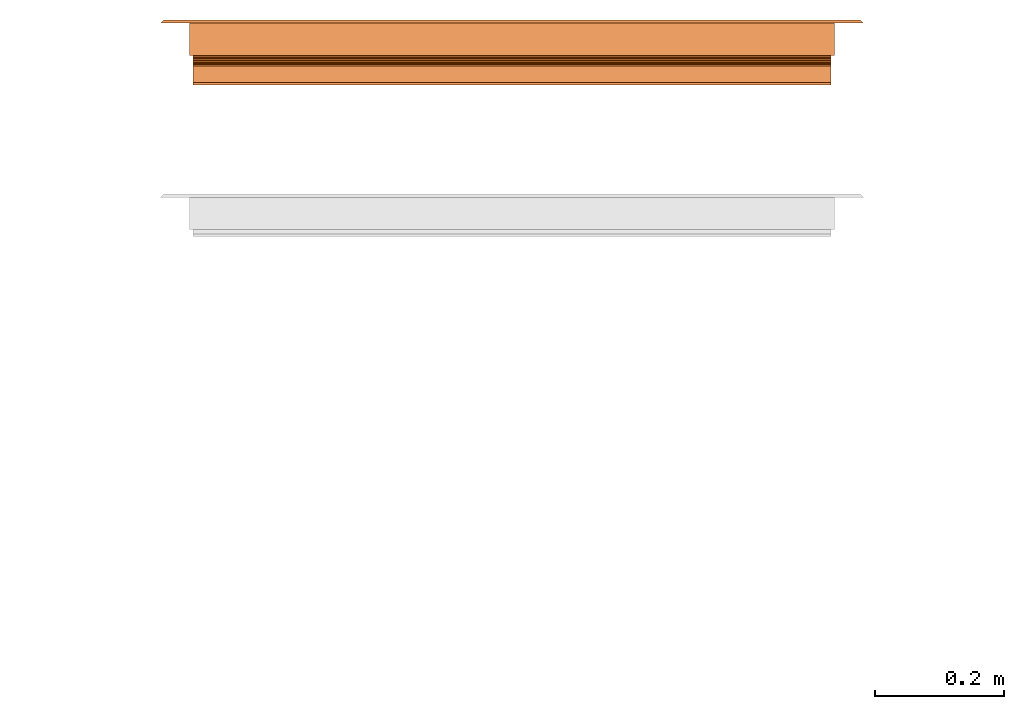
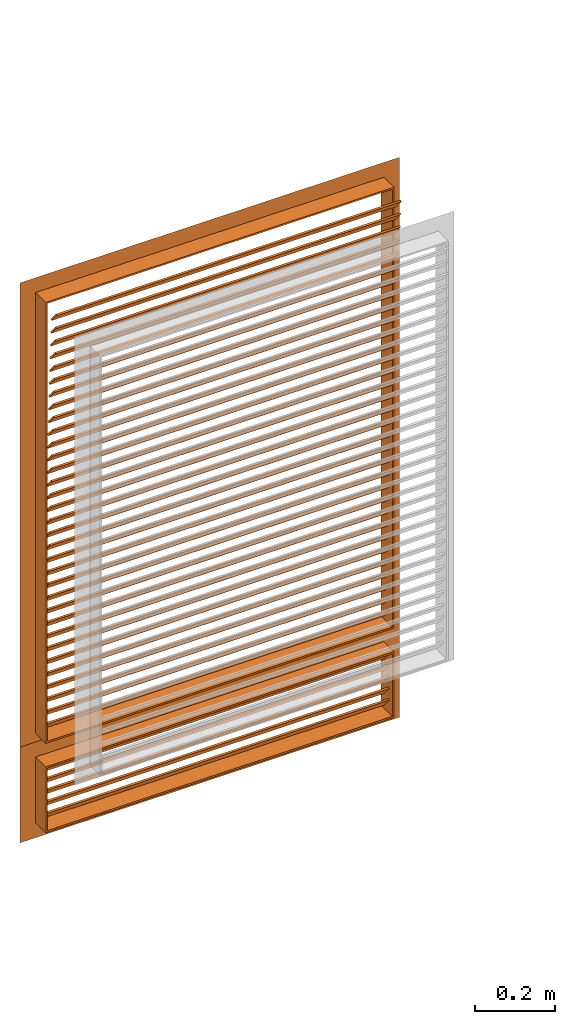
# One storey, part 4 of 5: 2 proxies.
"""IFC2X3 building model written with IfcOpenShell, lengths in centimetres."""

from ifc_helpers import new_model, entity, si_unit, converted_unit, derived_unit, direction, frame, origin, place, context, subcontext, project, spatial, faceted_brep, source, transform, mapped, material, type_object, type_shapes, element, save


model = new_model("IFC2X3")

# Units and contexts
model_context = context("Model", 3, precision=0.001, world=origin(), true_north=direction((6.12303176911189e-17, 1.0)))
body_context = subcontext(model_context, "Body", "Model", "MODEL_VIEW")
ifc_project = project(units=[si_unit("LENGTHUNIT", "METRE", prefix="CENTI"), si_unit("AREAUNIT", "SQUARE_METRE"), si_unit("VOLUMEUNIT", "CUBIC_METRE"), converted_unit("PLANEANGLEUNIT", "DEGREE", entity("IfcRatioMeasure", 0.0174532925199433), si_unit("PLANEANGLEUNIT", "RADIAN"), dimensions=[0, 0, 0, 0, 0, 0, 0]), si_unit("MASSUNIT", "GRAM", prefix="KILO"), si_unit("TIMEUNIT", "SECOND"), si_unit("FREQUENCYUNIT", "HERTZ"), si_unit("THERMODYNAMICTEMPERATUREUNIT", "DEGREE_CELSIUS"), derived_unit("THERMALTRANSMITTANCEUNIT", [(si_unit("MASSUNIT", "GRAM", prefix="KILO"), 1), (si_unit("THERMODYNAMICTEMPERATUREUNIT", "KELVIN"), -1), (si_unit("TIMEUNIT", "SECOND"), -3)]), derived_unit("VOLUMETRICFLOWRATEUNIT", [(si_unit("LENGTHUNIT", "METRE"), 3), (si_unit("TIMEUNIT", "SECOND"), -1)]), si_unit("ELECTRICCURRENTUNIT", "AMPERE"), si_unit("ELECTRICVOLTAGEUNIT", "VOLT"), si_unit("POWERUNIT", "WATT"), si_unit("FORCEUNIT", "NEWTON", prefix="KILO"), si_unit("ILLUMINANCEUNIT", "LUX"), si_unit("LUMINOUSFLUXUNIT", "LUMEN"), si_unit("LUMINOUSINTENSITYUNIT", "CANDELA"), derived_unit("USERDEFINED", [(si_unit("MASSUNIT", "GRAM", prefix="KILO"), -1), (si_unit("LENGTHUNIT", "METRE"), -2), (si_unit("TIMEUNIT", "SECOND"), 3), (si_unit("LUMINOUSFLUXUNIT", "LUMEN"), 1)]), derived_unit("LINEARVELOCITYUNIT", [(si_unit("LENGTHUNIT", "METRE"), 1), (si_unit("TIMEUNIT", "SECOND"), -1)]), si_unit("PRESSUREUNIT", "PASCAL"), derived_unit("USERDEFINED", [(si_unit("LENGTHUNIT", "METRE"), -2), (si_unit("MASSUNIT", "GRAM", prefix="KILO"), 1), (si_unit("TIMEUNIT", "SECOND"), -2)])], contexts=[model_context])

# Site, building, storey
site_placement = place(None, frame((8.62739174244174, -249.285249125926, 0.0)))
site = spatial("IfcSite", under=ifc_project, at=site_placement, Name="Default", CompositionType="ELEMENT")
building_placement = place(site_placement, origin())
building = spatial("IfcBuilding", under=site, at=building_placement, CompositionType="ELEMENT")
storey_placement = place(building_placement, frame((0.0, 0.0, 410.0)))
storey = spatial("IfcBuildingStorey", under=building, at=storey_placement, Name="Acrotère E1", CompositionType="ELEMENT", Elevation=410.000000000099)

# Proxies
ifc_material = material(Name="Acier - Galvanisé")
building_element_proxy_type_1 = type_object("IfcBuildingElementProxyType", Name="1000 x 800 mm", PredefinedType="NOTDEFINED", material=ifc_material)
shared_shape_1 = source(origin(), body_context, "Body", "Brep", [
    faceted_brep([(104.011775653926, 5.81249999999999, 13.071986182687), (104.011775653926, 8.38365043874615, 10.007808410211), (104.011775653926, 8.76667266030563, 10.3292022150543), (104.011775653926, 6.19552222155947, 13.3933799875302), (5.01177565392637, 5.81249999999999, 13.071986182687), (5.01177565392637, 6.19552222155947, 13.3933799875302), (5.01177565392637, 8.76667266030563, 10.3292022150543), (5.01177565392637, 8.38365043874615, 10.007808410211)], [[[0, 1, 2, 3]], [[4, 5, 6, 7]], [[1, 0, 4, 7]], [[2, 1, 7, 6]], [[3, 2, 6, 5]], [[0, 3, 5, 4]]]),
    faceted_brep([(104.011775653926, 5.62499999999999, 17.0680189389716), (104.011775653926, 8.19615043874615, 14.0038411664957), (104.011775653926, 8.57917266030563, 14.325234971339), (104.011775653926, 6.00802222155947, 17.3894127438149), (5.01177565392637, 5.62499999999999, 17.0680189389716), (5.01177565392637, 6.00802222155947, 17.3894127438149), (5.01177565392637, 8.57917266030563, 14.325234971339), (5.01177565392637, 8.19615043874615, 14.0038411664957)], [[[0, 1, 2, 3]], [[4, 5, 6, 7]], [[1, 0, 4, 7]], [[2, 1, 7, 6]], [[3, 2, 6, 5]], [[0, 3, 5, 4]]]),
    faceted_brep([(104.011775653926, 5.4375, 21.0640516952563), (104.011775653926, 8.00865043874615, 17.9998739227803), (104.011775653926, 8.39167266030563, 18.3212677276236), (104.011775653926, 5.82052222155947, 21.3854455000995), (5.01177565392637, 5.4375, 21.0640516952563), (5.01177565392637, 5.82052222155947, 21.3854455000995), (5.01177565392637, 8.39167266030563, 18.3212677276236), (5.01177565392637, 8.00865043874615, 17.9998739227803)], [[[0, 1, 2, 3]], [[4, 5, 6, 7]], [[1, 0, 4, 7]], [[2, 1, 7, 6]], [[3, 2, 6, 5]], [[0, 3, 5, 4]]]),
    faceted_brep([(104.011775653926, 5.24999999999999, 25.0600844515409), (104.011775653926, 7.82115043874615, 21.995906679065), (104.011775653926, 8.20417266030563, 22.3173004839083), (104.011775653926, 5.63302222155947, 25.3814782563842), (5.01177565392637, 5.24999999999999, 25.0600844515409), (5.01177565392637, 5.63302222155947, 25.3814782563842), (5.01177565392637, 8.20417266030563, 22.3173004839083), (5.01177565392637, 7.82115043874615, 21.995906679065)], [[[0, 1, 2, 3]], [[4, 5, 6, 7]], [[1, 0, 4, 7]], [[2, 1, 7, 6]], [[3, 2, 6, 5]], [[0, 3, 5, 4]]]),
    faceted_brep([(104.011775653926, 5.06249999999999, 29.0561172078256), (104.011775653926, 7.63365043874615, 25.9919394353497), (104.011775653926, 8.01667266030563, 26.313333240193), (104.011775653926, 5.44552222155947, 29.3775110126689), (5.01177565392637, 5.06249999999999, 29.0561172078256), (5.01177565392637, 5.44552222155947, 29.3775110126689), (5.01177565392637, 8.01667266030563, 26.313333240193), (5.01177565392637, 7.63365043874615, 25.9919394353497)], [[[0, 1, 2, 3]], [[4, 5, 6, 7]], [[1, 0, 4, 7]], [[2, 1, 7, 6]], [[3, 2, 6, 5]], [[0, 3, 5, 4]]]),
    faceted_brep([(104.011775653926, 4.87499999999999, 33.0521499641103), (104.011775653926, 7.44615043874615, 29.9879721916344), (104.011775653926, 7.82917266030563, 30.3093659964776), (104.011775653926, 5.25802222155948, 33.3735437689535), (5.01177565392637, 4.87499999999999, 33.0521499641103), (5.01177565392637, 5.25802222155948, 33.3735437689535), (5.01177565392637, 7.82917266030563, 30.3093659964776), (5.01177565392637, 7.44615043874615, 29.9879721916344)], [[[0, 1, 2, 3]], [[4, 5, 6, 7]], [[1, 0, 4, 7]], [[2, 1, 7, 6]], [[3, 2, 6, 5]], [[0, 3, 5, 4]]]),
    faceted_brep([(104.011775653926, 4.68749999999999, 37.0481827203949), (104.011775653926, 7.25865043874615, 33.984004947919), (104.011775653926, 7.64167266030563, 34.3053987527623), (104.011775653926, 5.07052222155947, 37.3695765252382), (5.01177565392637, 4.68749999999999, 37.0481827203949), (5.01177565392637, 5.07052222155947, 37.3695765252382), (5.01177565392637, 7.64167266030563, 34.3053987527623), (5.01177565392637, 7.25865043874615, 33.984004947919)], [[[0, 1, 2, 3]], [[4, 5, 6, 7]], [[1, 0, 4, 7]], [[2, 1, 7, 6]], [[3, 2, 6, 5]], [[0, 3, 5, 4]]]),
    faceted_brep([(104.011775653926, 4.5, 41.0442154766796), (104.011775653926, 7.07115043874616, 37.9800377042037), (104.011775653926, 7.45417266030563, 38.301431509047), (104.011775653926, 4.88302222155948, 41.3656092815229), (5.01177565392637, 4.5, 41.0442154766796), (5.01177565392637, 4.88302222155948, 41.3656092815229), (5.01177565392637, 7.45417266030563, 38.301431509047), (5.01177565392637, 7.07115043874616, 37.9800377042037)], [[[0, 1, 2, 3]], [[4, 5, 6, 7]], [[1, 0, 4, 7]], [[2, 1, 7, 6]], [[3, 2, 6, 5]], [[0, 3, 5, 4]]]),
    faceted_brep([(104.011775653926, 4.31249999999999, 45.0402482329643), (104.011775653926, 6.88365043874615, 41.9760704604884), (104.011775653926, 7.26667266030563, 42.2974642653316), (104.011775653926, 4.69552222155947, 45.3616420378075), (5.01177565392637, 4.31249999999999, 45.0402482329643), (5.01177565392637, 4.69552222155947, 45.3616420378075), (5.01177565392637, 7.26667266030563, 42.2974642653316), (5.01177565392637, 6.88365043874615, 41.9760704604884)], [[[0, 1, 2, 3]], [[4, 5, 6, 7]], [[1, 0, 4, 7]], [[2, 1, 7, 6]], [[3, 2, 6, 5]], [[0, 3, 5, 4]]]),
    faceted_brep([(104.011775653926, 4.125, 49.0362809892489), (104.011775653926, 6.69615043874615, 45.972103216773), (104.011775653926, 7.07917266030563, 46.2934970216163), (104.011775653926, 4.50802222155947, 49.3576747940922), (5.01177565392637, 4.125, 49.0362809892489), (5.01177565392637, 4.50802222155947, 49.3576747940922), (5.01177565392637, 7.07917266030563, 46.2934970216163), (5.01177565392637, 6.69615043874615, 45.972103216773)], [[[0, 1, 2, 3]], [[4, 5, 6, 7]], [[1, 0, 4, 7]], [[2, 1, 7, 6]], [[3, 2, 6, 5]], [[0, 3, 5, 4]]]),
    faceted_brep([(104.011775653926, 3.93749999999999, 53.0323137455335), (104.011775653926, 6.50865043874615, 49.9681359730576), (104.011775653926, 6.89167266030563, 50.2895297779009), (104.011775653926, 4.32052222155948, 53.3537075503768), (5.01177565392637, 3.93749999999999, 53.0323137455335), (5.01177565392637, 4.32052222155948, 53.3537075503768), (5.01177565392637, 6.89167266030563, 50.2895297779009), (5.01177565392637, 6.50865043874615, 49.9681359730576)], [[[0, 1, 2, 3]], [[4, 5, 6, 7]], [[1, 0, 4, 7]], [[2, 1, 7, 6]], [[3, 2, 6, 5]], [[0, 3, 5, 4]]]),
    faceted_brep([(104.011775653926, 3.75, 57.0283465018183), (104.011775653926, 6.32115043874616, 53.9641687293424), (104.011775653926, 6.70417266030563, 54.2855625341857), (104.011775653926, 4.13302222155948, 57.3497403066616), (5.01177565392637, 3.75, 57.0283465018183), (5.01177565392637, 4.13302222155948, 57.3497403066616), (5.01177565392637, 6.70417266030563, 54.2855625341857), (5.01177565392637, 6.32115043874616, 53.9641687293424)], [[[0, 1, 2, 3]], [[4, 5, 6, 7]], [[1, 0, 4, 7]], [[2, 1, 7, 6]], [[3, 2, 6, 5]], [[0, 3, 5, 4]]]),
    faceted_brep([(104.011775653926, 3.5625, 61.0243792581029), (104.011775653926, 6.13365043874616, 57.960201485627), (104.011775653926, 6.51667266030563, 58.2815952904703), (104.011775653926, 3.94552222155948, 61.3457730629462), (5.01177565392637, 3.5625, 61.0243792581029), (5.01177565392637, 3.94552222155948, 61.3457730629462), (5.01177565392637, 6.51667266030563, 58.2815952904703), (5.01177565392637, 6.13365043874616, 57.960201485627)], [[[0, 1, 2, 3]], [[4, 5, 6, 7]], [[1, 0, 4, 7]], [[2, 1, 7, 6]], [[3, 2, 6, 5]], [[0, 3, 5, 4]]]),
    faceted_brep([(104.011775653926, 3.375, 65.0204120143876), (104.011775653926, 5.94615043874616, 61.9562342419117), (104.011775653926, 6.32917266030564, 62.277628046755), (104.011775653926, 3.75802222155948, 65.3418058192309), (5.01177565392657, 3.375, 65.0204120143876), (5.01177565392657, 3.75802222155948, 65.3418058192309), (5.01177565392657, 6.32917266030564, 62.277628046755), (5.01177565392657, 5.94615043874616, 61.9562342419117)], [[[0, 1, 2, 3]], [[4, 5, 6, 7]], [[1, 0, 4, 7]], [[2, 1, 7, 6]], [[3, 2, 6, 5]], [[0, 3, 5, 4]]]),
    faceted_brep([(104.011775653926, 3.1875, 69.0164447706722), (104.011775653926, 5.75865043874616, 65.9522669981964), (104.011775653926, 6.14167266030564, 66.2736608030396), (104.011775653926, 3.57052222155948, 69.3378385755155), (5.01177565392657, 3.1875, 69.0164447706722), (5.01177565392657, 3.57052222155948, 69.3378385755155), (5.01177565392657, 6.14167266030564, 66.2736608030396), (5.01177565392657, 5.75865043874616, 65.9522669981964)], [[[0, 1, 2, 3]], [[4, 5, 6, 7]], [[1, 0, 4, 7]], [[2, 1, 7, 6]], [[3, 2, 6, 5]], [[0, 3, 5, 4]]]),
    faceted_brep([(104.011775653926, 3.0, 73.0124775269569), (104.011775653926, 5.57115043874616, 69.948299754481), (104.011775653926, 5.95417266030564, 70.2696935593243), (104.011775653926, 3.38302222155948, 73.3338713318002), (5.01177565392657, 3.0, 73.0124775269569), (5.01177565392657, 3.38302222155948, 73.3338713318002), (5.01177565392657, 5.95417266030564, 70.2696935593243), (5.01177565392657, 5.57115043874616, 69.948299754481)], [[[0, 1, 2, 3]], [[4, 5, 6, 7]], [[1, 0, 4, 7]], [[2, 1, 7, 6]], [[3, 2, 6, 5]], [[0, 3, 5, 4]]]),
    faceted_brep([(104.011775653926, 2.8125, 77.0085102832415), (104.011775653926, 5.38365043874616, 73.9443325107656), (104.011775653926, 5.76667266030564, 74.2657263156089), (104.011775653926, 3.19552222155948, 77.3299040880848), (5.01177565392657, 2.8125, 77.0085102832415), (5.01177565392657, 3.19552222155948, 77.3299040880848), (5.01177565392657, 5.76667266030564, 74.2657263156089), (5.01177565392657, 5.38365043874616, 73.9443325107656)], [[[0, 1, 2, 3]], [[4, 5, 6, 7]], [[1, 0, 4, 7]], [[2, 1, 7, 6]], [[3, 2, 6, 5]], [[0, 3, 5, 4]]]),
    faceted_brep([(104.011775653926, 2.625, 81.0045430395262), (104.011775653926, 5.19615043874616, 77.9403652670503), (104.011775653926, 5.57917266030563, 78.2617590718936), (104.011775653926, 3.00802222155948, 81.3259368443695), (5.01177565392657, 2.625, 81.0045430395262), (5.01177565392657, 3.00802222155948, 81.3259368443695), (5.01177565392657, 5.57917266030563, 78.2617590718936), (5.01177565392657, 5.19615043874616, 77.9403652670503)], [[[0, 1, 2, 3]], [[4, 5, 6, 7]], [[1, 0, 4, 7]], [[2, 1, 7, 6]], [[3, 2, 6, 5]], [[0, 3, 5, 4]]]),
    faceted_brep([(104.011775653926, 2.4375, 85.0005757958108), (104.011775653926, 5.00865043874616, 81.936398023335), (104.011775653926, 5.39167266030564, 82.2577918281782), (104.011775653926, 2.82052222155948, 85.3219696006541), (5.01177565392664, 2.4375, 85.0005757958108), (5.01177565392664, 2.82052222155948, 85.3219696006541), (5.01177565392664, 5.39167266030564, 82.2577918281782), (5.01177565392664, 5.00865043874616, 81.936398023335)], [[[0, 1, 2, 3]], [[4, 5, 6, 7]], [[1, 0, 4, 7]], [[2, 1, 7, 6]], [[3, 2, 6, 5]], [[0, 3, 5, 4]]]),
    faceted_brep([(104.011775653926, 2.25, 88.9966085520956), (104.011775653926, 4.82115043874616, 85.9324307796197), (104.011775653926, 5.20417266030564, 86.253824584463), (104.011775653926, 2.63302222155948, 89.3180023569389), (5.01177565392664, 2.25, 88.9966085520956), (5.01177565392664, 2.63302222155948, 89.3180023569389), (5.01177565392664, 5.20417266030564, 86.253824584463), (5.01177565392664, 4.82115043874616, 85.9324307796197)], [[[0, 1, 2, 3]], [[4, 5, 6, 7]], [[1, 0, 4, 7]], [[2, 1, 7, 6]], [[3, 2, 6, 5]], [[0, 3, 5, 4]]]),
    faceted_brep([(104.011775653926, 2.0625, 92.9926413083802), (104.011775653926, 4.63365043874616, 89.9284635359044), (104.011775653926, 5.01667266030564, 90.2498573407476), (104.011775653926, 2.44552222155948, 93.3140351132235), (5.01177565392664, 2.0625, 92.9926413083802), (5.01177565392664, 2.44552222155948, 93.3140351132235), (5.01177565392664, 5.01667266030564, 90.2498573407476), (5.01177565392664, 4.63365043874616, 89.9284635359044)], [[[0, 1, 2, 3]], [[4, 5, 6, 7]], [[1, 0, 4, 7]], [[2, 1, 7, 6]], [[3, 2, 6, 5]], [[0, 3, 5, 4]]]),
    faceted_brep([(104.011775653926, 1.875, 96.9886740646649), (104.011775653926, 4.44615043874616, 93.924496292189), (104.011775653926, 4.82917266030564, 94.2458900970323), (104.011775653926, 2.25802222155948, 97.3100678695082), (5.01177565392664, 1.875, 96.9886740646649), (5.01177565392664, 2.25802222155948, 97.3100678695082), (5.01177565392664, 4.82917266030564, 94.2458900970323), (5.01177565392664, 4.44615043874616, 93.924496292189)], [[[0, 1, 2, 3]], [[4, 5, 6, 7]], [[1, 0, 4, 7]], [[2, 1, 7, 6]], [[3, 2, 6, 5]], [[0, 3, 5, 4]]]),
    faceted_brep([(104.011775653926, 1.6875, 100.98470682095), (104.011775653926, 4.25865043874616, 97.9205290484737), (104.011775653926, 4.64167266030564, 98.241922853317), (104.011775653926, 2.07052222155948, 101.306100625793), (5.01177565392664, 1.6875, 100.98470682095), (5.01177565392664, 2.07052222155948, 101.306100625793), (5.01177565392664, 4.64167266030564, 98.241922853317), (5.01177565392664, 4.25865043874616, 97.9205290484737)], [[[0, 1, 2, 3]], [[4, 5, 6, 7]], [[1, 0, 4, 7]], [[2, 1, 7, 6]], [[3, 2, 6, 5]], [[0, 3, 5, 4]]]),
    faceted_brep([(104.011775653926, 1.5, 104.980739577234), (104.011775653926, 4.07115043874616, 101.916561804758), (104.011775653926, 4.45417266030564, 102.237955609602), (104.011775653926, 1.88302222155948, 105.302133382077), (5.01177565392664, 1.5, 104.980739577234), (5.01177565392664, 1.88302222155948, 105.302133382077), (5.01177565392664, 4.45417266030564, 102.237955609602), (5.01177565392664, 4.07115043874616, 101.916561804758)], [[[0, 1, 2, 3]], [[4, 5, 6, 7]], [[1, 0, 4, 7]], [[2, 1, 7, 6]], [[3, 2, 6, 5]], [[0, 3, 5, 4]]]),
    faceted_brep([(104.011775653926, 1.3125, 108.976772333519), (104.011775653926, 3.88365043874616, 105.912594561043), (104.011775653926, 4.26667266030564, 106.233988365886), (104.011775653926, 1.69552222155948, 109.298166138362), (5.01177565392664, 1.3125, 108.976772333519), (5.01177565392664, 1.69552222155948, 109.298166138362), (5.01177565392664, 4.26667266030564, 106.233988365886), (5.01177565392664, 3.88365043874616, 105.912594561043)], [[[0, 1, 2, 3]], [[4, 5, 6, 7]], [[1, 0, 4, 7]], [[2, 1, 7, 6]], [[3, 2, 6, 5]], [[0, 3, 5, 4]]]),
    faceted_brep([(104.011775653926, 1.125, 112.972805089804), (104.011775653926, 3.69615043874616, 109.908627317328), (104.011775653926, 4.07917266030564, 110.230021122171), (104.011775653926, 1.50802222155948, 113.294198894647), (5.01177565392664, 1.125, 112.972805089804), (5.01177565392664, 1.50802222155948, 113.294198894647), (5.01177565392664, 4.07917266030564, 110.230021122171), (5.01177565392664, 3.69615043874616, 109.908627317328)], [[[0, 1, 2, 3]], [[4, 5, 6, 7]], [[1, 0, 4, 7]], [[2, 1, 7, 6]], [[3, 2, 6, 5]], [[0, 3, 5, 4]]]),
    faceted_brep([(104.011775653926, 0.937499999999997, 116.968837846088), (104.011775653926, 3.50865043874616, 113.904660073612), (104.011775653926, 3.89167266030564, 114.226053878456), (104.011775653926, 1.32052222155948, 117.290231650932), (5.01177565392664, 0.937499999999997, 116.968837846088), (5.01177565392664, 1.32052222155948, 117.290231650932), (5.01177565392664, 3.89167266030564, 114.226053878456), (5.01177565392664, 3.50865043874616, 113.904660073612)], [[[0, 1, 2, 3]], [[4, 5, 6, 7]], [[1, 0, 4, 7]], [[2, 1, 7, 6]], [[3, 2, 6, 5]], [[0, 3, 5, 4]]]),
    faceted_brep([(104.011775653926, 0.75, 120.964870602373), (104.011775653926, 3.32115043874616, 117.900692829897), (104.011775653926, 3.70417266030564, 118.22208663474), (104.011775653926, 1.13302222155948, 121.286264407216), (5.01177565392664, 0.75, 120.964870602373), (5.01177565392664, 1.13302222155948, 121.286264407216), (5.01177565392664, 3.70417266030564, 118.22208663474), (5.01177565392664, 3.32115043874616, 117.900692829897)], [[[0, 1, 2, 3]], [[4, 5, 6, 7]], [[1, 0, 4, 7]], [[2, 1, 7, 6]], [[3, 2, 6, 5]], [[0, 3, 5, 4]]]),
    faceted_brep([(104.011775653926, 0.5625, 124.960903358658), (104.011775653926, 3.13365043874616, 121.896725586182), (104.011775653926, 3.51667266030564, 122.218119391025), (104.011775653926, 0.945522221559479, 125.282297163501), (5.01177565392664, 0.5625, 124.960903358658), (5.01177565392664, 0.945522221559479, 125.282297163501), (5.01177565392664, 3.51667266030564, 122.218119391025), (5.01177565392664, 3.13365043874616, 121.896725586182)], [[[0, 1, 2, 3]], [[4, 5, 6, 7]], [[1, 0, 4, 7]], [[2, 1, 7, 6]], [[3, 2, 6, 5]], [[0, 3, 5, 4]]]),
    faceted_brep([(104.011775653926, 0.374999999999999, 128.956936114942), (104.011775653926, 2.94615043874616, 125.892758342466), (104.011775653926, 3.32917266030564, 126.21415214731), (104.011775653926, 0.758022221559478, 129.278329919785), (5.01177565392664, 0.374999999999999, 128.956936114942), (5.01177565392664, 0.758022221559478, 129.278329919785), (5.01177565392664, 3.32917266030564, 126.21415214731), (5.01177565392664, 2.94615043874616, 125.892758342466)], [[[0, 1, 2, 3]], [[4, 5, 6, 7]], [[1, 0, 4, 7]], [[2, 1, 7, 6]], [[3, 2, 6, 5]], [[0, 3, 5, 4]]]),
    faceted_brep([(104.011775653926, 0.187499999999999, 132.952968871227), (104.011775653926, 2.75865043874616, 129.888791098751), (104.011775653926, 3.14167266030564, 130.210184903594), (104.011775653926, 0.570522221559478, 133.27436267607), (5.01177565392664, 0.187499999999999, 132.952968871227), (5.01177565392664, 0.570522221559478, 133.27436267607), (5.01177565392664, 3.14167266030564, 130.210184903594), (5.01177565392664, 2.75865043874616, 129.888791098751)], [[[0, 1, 2, 3]], [[4, 5, 6, 7]], [[1, 0, 4, 7]], [[2, 1, 7, 6]], [[3, 2, 6, 5]], [[0, 3, 5, 4]]]),
    faceted_brep([(104.011775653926, 6.0, 9.07595342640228), (104.011775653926, 8.57115043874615, 6.01177565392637), (104.011775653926, 8.95417266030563, 6.33316945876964), (104.011775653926, 6.38302222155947, 9.39734723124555), (5.01177565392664, 6.0, 9.07595342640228), (5.01177565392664, 6.38302222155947, 9.39734723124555), (5.01177565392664, 8.95417266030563, 6.33316945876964), (5.01177565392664, 8.57115043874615, 6.01177565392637)], [[[0, 1, 2, 3]], [[4, 5, 6, 7]], [[1, 0, 4, 7]], [[2, 1, 7, 6]], [[3, 2, 6, 5]], [[0, 3, 5, 4]]]),
    faceted_brep([(104.011775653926, 0.0, 136.949001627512), (104.011775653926, 2.57115043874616, 133.884823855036), (104.011775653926, 2.95417266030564, 134.206217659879), (104.011775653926, 0.383022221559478, 137.270395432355), (5.01177565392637, 0.0, 136.949001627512), (5.01177565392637, 0.383022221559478, 137.270395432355), (5.01177565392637, 2.95417266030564, 134.206217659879), (5.01177565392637, 2.57115043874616, 133.884823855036)], [[[0, 1, 2, 3]], [[4, 5, 6, 7]], [[1, 0, 4, 7]], [[2, 1, 7, 6]], [[3, 2, 6, 5]], [[0, 3, 5, 4]]]),
    faceted_brep([(4.51177565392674, 4.57115043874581, 138.384823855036), (4.51177565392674, 9.57115043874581, 138.384823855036), (4.51177565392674, 9.57115043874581, 4.51177565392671), (4.51177565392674, 4.57115043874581, 4.51177565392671), (5.01177565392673, 10.0711504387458, 137.884823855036), (5.01177565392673, 4.57115043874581, 137.884823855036), (5.01177565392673, 4.57115043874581, 5.0117756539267), (5.01177565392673, 10.0711504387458, 5.0117756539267), (0.0, 9.57115043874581, 142.896599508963), (0.499999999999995, 10.0711504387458, 142.396599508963), (0.499999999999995, 10.0711504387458, 0.499999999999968), (0.0, 9.57115043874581, 0.0), (104.511775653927, 9.57115043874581, 4.51177565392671), (104.511775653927, 4.57115043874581, 4.51177565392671), (104.011775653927, 4.57115043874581, 5.0117756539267), (104.011775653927, 10.0711504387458, 5.0117756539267), (108.523551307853, 10.0711504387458, 0.499999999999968), (109.023551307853, 9.57115043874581, 0.0), (104.511775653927, 9.57115043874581, 138.384823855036), (104.511775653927, 4.57115043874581, 138.384823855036), (104.011775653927, 4.57115043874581, 137.884823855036), (104.011775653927, 10.0711504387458, 137.884823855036), (108.523551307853, 10.0711504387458, 142.396599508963), (109.023551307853, 9.57115043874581, 142.896599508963)], [[[0, 1, 2, 3]], [[4, 5, 6, 7]], [[8, 9, 10, 11]], [[3, 2, 12, 13]], [[7, 6, 14, 15]], [[11, 10, 16, 17]], [[13, 12, 18, 19]], [[15, 14, 20, 21]], [[17, 16, 22, 23]], [[19, 18, 1, 0]], [[3, 13, 19, 0], [5, 20, 14, 6]], [[21, 20, 5, 4]], [[7, 15, 21, 4], [9, 22, 16, 10]], [[23, 22, 9, 8]], [[11, 17, 23, 8], [1, 18, 12, 2]]], outer=[[True], [True], [True], [True], [True], [True], [True], [True], [True], [True], [True, False], [True], [False, True], [True], [True, False]]),
])
type_shapes(building_element_proxy_type_1, [shared_shape_1])
proxy_1_placement = place(storey_placement, frame((3611.39305210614, 6132.40905770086, 68.1034004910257)))
element("IfcBuildingElementProxy", 1, at=proxy_1_placement, inside=storey, type_object=building_element_proxy_type_1, material=ifc_material, Name="Grille d'aération-100x80:1000 x 800 mm", ObjectType="1000 x 800 mm", context=body_context, shape_type="MappedRepresentation", body=[
    mapped(shared_shape_1, transform((0.0, 0.0, 0.0), scale=1.0)),
])
building_element_proxy_type_2 = type_object("IfcBuildingElementProxyType", Name="900 x 600 mm", PredefinedType="NOTDEFINED", material=ifc_material)
shared_shape_2 = source(origin(), body_context, "Body", "Brep", [
    faceted_brep([(104.011775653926, 1.42884956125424, 12.5759534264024), (104.011775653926, 4.0, 9.51177565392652), (104.011775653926, 4.38302222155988, 9.8331694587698), (104.011775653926, 1.81187178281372, 12.8973472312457), (5.01177565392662, 1.42884956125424, 12.5759534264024), (5.01177565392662, 1.81187178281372, 12.8973472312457), (5.01177565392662, 4.38302222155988, 9.8331694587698), (5.01177565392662, 4.0, 9.51177565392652)], [[[0, 1, 2, 3]], [[4, 5, 6, 7]], [[1, 0, 4, 7]], [[2, 1, 7, 6]], [[3, 2, 6, 5]], [[0, 3, 5, 4]]]),
    faceted_brep([(104.011775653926, 1.4288495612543, 16.0759534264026), (104.011775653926, 4.0, 13.0117756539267), (104.011775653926, 4.38302222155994, 13.3331694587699), (104.011775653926, 1.81187178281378, 16.3973472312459), (5.01177565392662, 1.4288495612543, 16.0759534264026), (5.01177565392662, 1.81187178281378, 16.3973472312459), (5.01177565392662, 4.38302222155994, 13.3331694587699), (5.01177565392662, 4.0, 13.0117756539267)], [[[0, 1, 2, 3]], [[4, 5, 6, 7]], [[1, 0, 4, 7]], [[2, 1, 7, 6]], [[3, 2, 6, 5]], [[0, 3, 5, 4]]]),
    faceted_brep([(104.011775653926, 1.42884956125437, 19.5759534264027), (104.011775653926, 4.0, 16.5117756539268), (104.011775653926, 4.38302222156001, 16.8331694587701), (104.011775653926, 1.81187178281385, 19.897347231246), (5.01177565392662, 1.42884956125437, 19.5759534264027), (5.01177565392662, 1.81187178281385, 19.897347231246), (5.01177565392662, 4.38302222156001, 16.8331694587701), (5.01177565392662, 4.0, 16.5117756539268)], [[[0, 1, 2, 3]], [[4, 5, 6, 7]], [[1, 0, 4, 7]], [[2, 1, 7, 6]], [[3, 2, 6, 5]], [[0, 3, 5, 4]]]),
    faceted_brep([(104.011775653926, 1.42884956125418, 9.0759534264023), (104.011775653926, 4.0, 6.01177565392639), (104.011775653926, 4.38302222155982, 6.33316945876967), (104.011775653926, 1.81187178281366, 9.39734723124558), (5.01177565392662, 1.42884956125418, 9.0759534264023), (5.01177565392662, 1.81187178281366, 9.39734723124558), (5.01177565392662, 4.38302222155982, 6.33316945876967), (5.01177565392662, 4.0, 6.01177565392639)], [[[0, 1, 2, 3]], [[4, 5, 6, 7]], [[1, 0, 4, 7]], [[2, 1, 7, 6]], [[3, 2, 6, 5]], [[0, 3, 5, 4]]]),
    faceted_brep([(104.011775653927, 1.42884956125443, 23.0759534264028), (104.011775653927, 4.0, 20.0117756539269), (104.011775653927, 4.38302222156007, 20.3331694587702), (104.011775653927, 1.81187178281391, 23.3973472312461), (5.01177565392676, 1.42884956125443, 23.0759534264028), (5.01177565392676, 1.81187178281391, 23.3973472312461), (5.01177565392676, 4.38302222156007, 20.3331694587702), (5.01177565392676, 4.0, 20.0117756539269)], [[[0, 1, 2, 3]], [[4, 5, 6, 7]], [[1, 0, 4, 7]], [[2, 1, 7, 6]], [[3, 2, 6, 5]], [[0, 3, 5, 4]]]),
    faceted_brep([(4.51177565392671, 0.0, 24.5117756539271), (4.51177565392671, 5.0, 24.5117756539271), (4.51177565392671, 5.0, 4.51177565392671), (4.51177565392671, 0.0, 4.51177565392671), (5.0117756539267, 5.5, 24.0117756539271), (5.0117756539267, 0.0, 24.0117756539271), (5.0117756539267, 0.0, 5.0117756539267), (5.0117756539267, 5.5, 5.0117756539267), (0.0, 5.0, 29.0235513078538), (0.499999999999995, 5.5, 28.5235513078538), (0.499999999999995, 5.5, 0.499999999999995), (0.0, 5.0, 0.0), (104.511775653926, 5.0, 4.51177565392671), (104.511775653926, 0.0, 4.51177565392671), (104.011775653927, 0.0, 5.0117756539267), (104.011775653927, 5.5, 5.0117756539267), (108.523551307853, 5.5, 0.499999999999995), (109.023551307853, 5.0, 0.0), (104.511775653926, 5.0, 24.5117756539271), (104.511775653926, 0.0, 24.5117756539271), (104.011775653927, 0.0, 24.0117756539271), (104.011775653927, 5.5, 24.0117756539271), (108.523551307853, 5.5, 28.5235513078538), (109.023551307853, 5.0, 29.0235513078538)], [[[0, 1, 2, 3]], [[4, 5, 6, 7]], [[8, 9, 10, 11]], [[3, 2, 12, 13]], [[7, 6, 14, 15]], [[11, 10, 16, 17]], [[13, 12, 18, 19]], [[15, 14, 20, 21]], [[17, 16, 22, 23]], [[19, 18, 1, 0]], [[3, 13, 19, 0], [5, 20, 14, 6]], [[21, 20, 5, 4]], [[7, 15, 21, 4], [9, 22, 16, 10]], [[23, 22, 9, 8]], [[11, 17, 23, 8], [1, 18, 12, 2]]], outer=[[True], [True], [True], [True], [True], [True], [True], [True], [True], [True], [True, False], [True], [False, True], [True], [True, False]]),
])
type_shapes(building_element_proxy_type_2, [shared_shape_2])
proxy_2_placement = place(storey_placement, frame((3611.39305210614, 6136.9802081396, 40.9934406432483)))
element("IfcBuildingElementProxy", 2, at=proxy_2_placement, inside=storey, type_object=building_element_proxy_type_2, material=ifc_material, Name="Grille d'aération-100x20:900 x 600 mm", ObjectType="900 x 600 mm", context=body_context, shape_type="MappedRepresentation", body=[
    mapped(shared_shape_2, transform((0.0, 0.0, 0.0), scale=1.0)),
])

save(model, "model.ifc")
